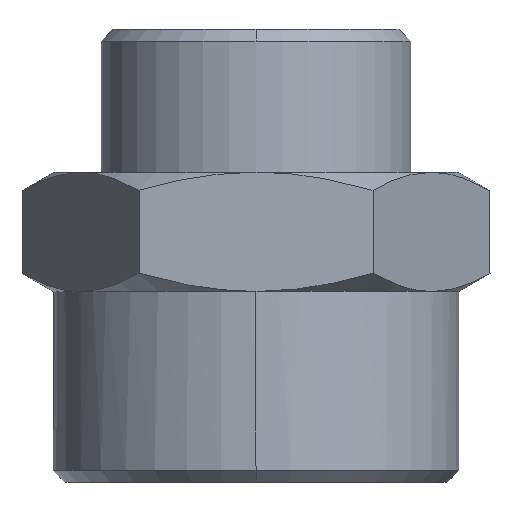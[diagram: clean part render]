
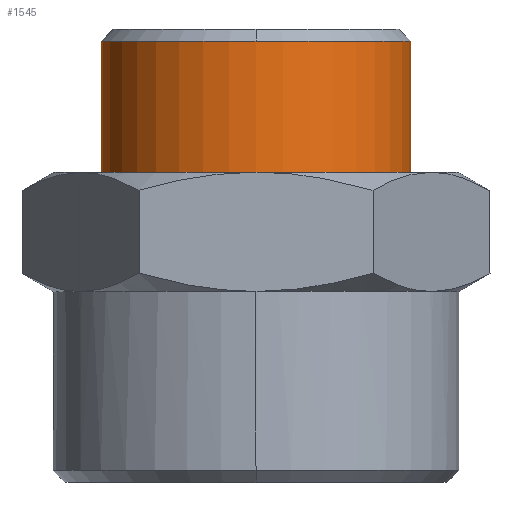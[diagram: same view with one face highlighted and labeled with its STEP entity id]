
A CAD part, top view. The second image highlights one B-rep face of the part: STEP entity #1545.
In plain terms, the highlighted cylindrical face has radius 6.5 mm (diameter 13 mm), a partial arc.
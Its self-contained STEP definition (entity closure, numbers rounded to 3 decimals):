
#65 = ORIENTED_EDGE ( 'NONE', *, *, #714, .T. ) ;
#138 = VERTEX_POINT ( 'NONE', #465 ) ;
#160 = CARTESIAN_POINT ( 'NONE',  ( 0., 18.5, 0. ) ) ;
#182 = CIRCLE ( 'NONE', #1558, 6.5 ) ;
#211 = DIRECTION ( 'NONE',  ( 0., -1., 0. ) ) ;
#223 = CIRCLE ( 'NONE', #1088, 6.5 ) ;
#254 = CARTESIAN_POINT ( 'NONE',  ( -6.5, 18.5, 0. ) ) ;
#380 = CARTESIAN_POINT ( 'NONE',  ( -6.5, 18.5, 0. ) ) ;
#405 = CARTESIAN_POINT ( 'NONE',  ( 6.5, 18.5, 0. ) ) ;
#416 = CIRCLE ( 'NONE', #1277, 6.5 ) ;
#421 = CARTESIAN_POINT ( 'NONE',  ( 0., 13., 0. ) ) ;
#431 = EDGE_CURVE ( 'NONE', #854, #1100, #1159, .T. ) ;
#444 = FACE_OUTER_BOUND ( 'NONE', #1616, .T. ) ;
#449 = DIRECTION ( 'NONE',  ( 0., 0., -1. ) ) ;
#458 = ORIENTED_EDGE ( 'NONE', *, *, #431, .F. ) ;
#465 = CARTESIAN_POINT ( 'NONE',  ( -6.5, 13., 0. ) ) ;
#471 = DIRECTION ( 'NONE',  ( 0., -1., 0. ) ) ;
#483 = DIRECTION ( 'NONE',  ( 1., 0., 0. ) ) ;
#540 = ORIENTED_EDGE ( 'NONE', *, *, #1539, .T. ) ;
#597 = CARTESIAN_POINT ( 'NONE',  ( 6.5, 13., 0. ) ) ;
#657 = ORIENTED_EDGE ( 'NONE', *, *, #920, .T. ) ;
#685 = CARTESIAN_POINT ( 'NONE',  ( 0., 18.5, 0. ) ) ;
#690 = CYLINDRICAL_SURFACE ( 'NONE', #1547, 6.5 ) ;
#714 = EDGE_CURVE ( 'NONE', #1150, #138, #1500, .T. ) ;
#723 = DIRECTION ( 'NONE',  ( 0., 0., -1. ) ) ;
#801 = DIRECTION ( 'NONE',  ( 0., -1., 0. ) ) ;
#854 = VERTEX_POINT ( 'NONE', #405 ) ;
#893 = ORIENTED_EDGE ( 'NONE', *, *, #1056, .F. ) ;
#920 = EDGE_CURVE ( 'NONE', #1235, #1150, #223, .T. ) ;
#1008 = DIRECTION ( 'NONE',  ( 0., -1., 0. ) ) ;
#1036 = DIRECTION ( 'NONE',  ( 1., 0., 0. ) ) ;
#1043 = VECTOR ( 'NONE', #1079, 1000. ) ;
#1056 = EDGE_CURVE ( 'NONE', #1100, #138, #182, .T. ) ;
#1079 = DIRECTION ( 'NONE',  ( 0., -1., 0. ) ) ;
#1088 = AXIS2_PLACEMENT_3D ( 'NONE', #160, #1008, #723 ) ;
#1100 = VERTEX_POINT ( 'NONE', #597 ) ;
#1150 = VERTEX_POINT ( 'NONE', #380 ) ;
#1159 = LINE ( 'NONE', #1212, #1201 ) ;
#1201 = VECTOR ( 'NONE', #1219, 1000. ) ;
#1212 = CARTESIAN_POINT ( 'NONE',  ( 6.5, 18.5, 0. ) ) ;
#1219 = DIRECTION ( 'NONE',  ( 0., -1., 0. ) ) ;
#1235 = VERTEX_POINT ( 'NONE', #1519 ) ;
#1277 = AXIS2_PLACEMENT_3D ( 'NONE', #1597, #801, #449 ) ;
#1500 = LINE ( 'NONE', #254, #1043 ) ;
#1519 = CARTESIAN_POINT ( 'NONE',  ( 0., 18.5, 6.5 ) ) ;
#1539 = EDGE_CURVE ( 'NONE', #854, #1235, #416, .T. ) ;
#1545 = ADVANCED_FACE ( 'NONE', ( #444 ), #690, .T. ) ;
#1547 = AXIS2_PLACEMENT_3D ( 'NONE', #685, #211, #1036 ) ;
#1558 = AXIS2_PLACEMENT_3D ( 'NONE', #421, #471, #483 ) ;
#1597 = CARTESIAN_POINT ( 'NONE',  ( 0., 18.5, 0. ) ) ;
#1616 = EDGE_LOOP ( 'NONE', ( #540, #657, #65, #893, #458 ) ) ;
